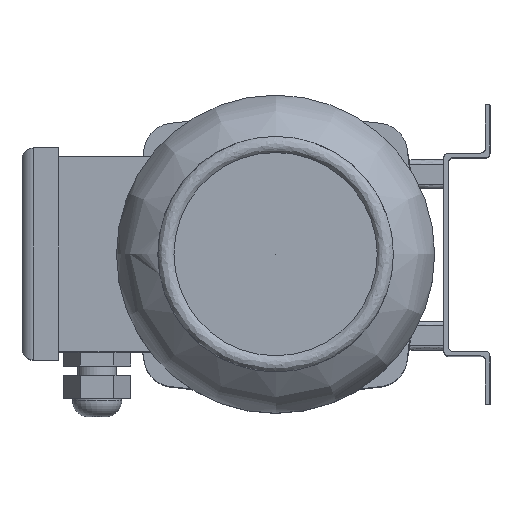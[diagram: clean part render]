
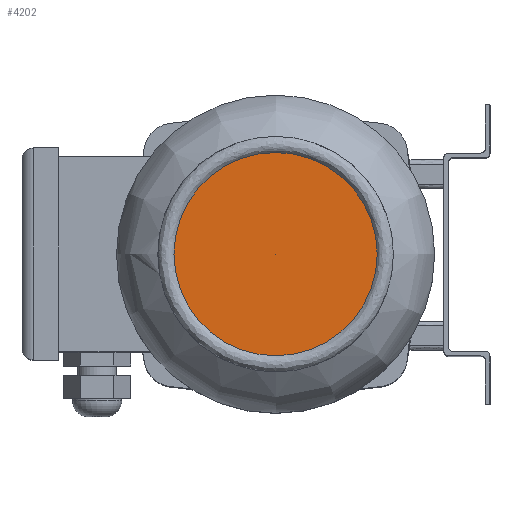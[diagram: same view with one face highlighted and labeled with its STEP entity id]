
A CAD part, top view. The second image highlights one B-rep face of the part: STEP entity #4202.
In plain terms, the highlighted conical face has half-angle 90 degrees and reference radius 0 mm.
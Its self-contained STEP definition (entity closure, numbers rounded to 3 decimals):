
#23=VERTEX_LOOP('',#3039);
#31=CONICAL_SURFACE('',#4519,0.,1.571);
#1235=ORIENTED_EDGE('',*,*,#2439,.F.);
#2439=EDGE_CURVE('',#3038,#3038,#3310,.T.);
#3038=VERTEX_POINT('',#7091);
#3039=VERTEX_POINT('',#7092);
#3310=CIRCLE('',#4520,44.08);
#3458=EDGE_LOOP('',(#1235));
#3788=FACE_BOUND('',#3458,.T.);
#3789=FACE_BOUND('',#23,.T.);
#4202=ADVANCED_FACE('',(#3788,#3789),#31,.F.);
#4519=AXIS2_PLACEMENT_3D('',#7089,#5024,#5025);
#4520=AXIS2_PLACEMENT_3D('',#7090,#5026,#5027);
#5024=DIRECTION('',(0.,0.,1.));
#5025=DIRECTION('',(1.,0.,0.));
#5026=DIRECTION('',(0.,0.,-1.));
#5027=DIRECTION('',(-1.,0.,0.));
#7089=CARTESIAN_POINT('',(0.,0.,350.357));
#7090=CARTESIAN_POINT('',(0.,0.,350.357));
#7091=CARTESIAN_POINT('',(-44.08,0.,350.357));
#7092=CARTESIAN_POINT('',(0.,0.,350.357));
